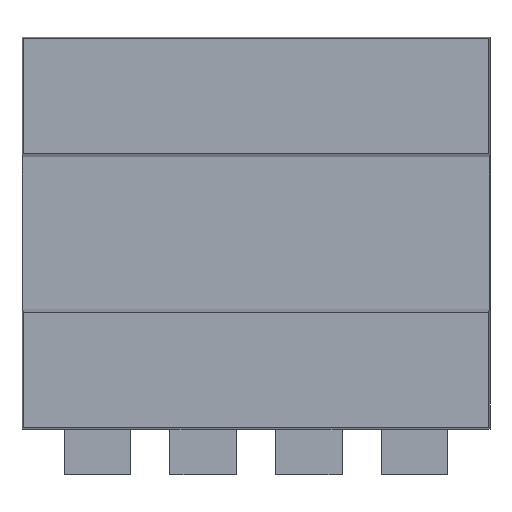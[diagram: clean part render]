
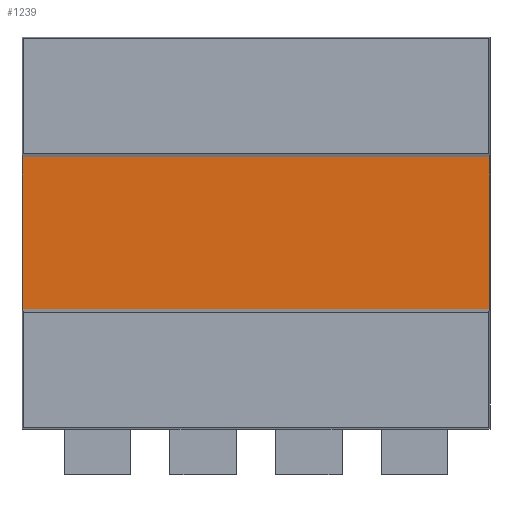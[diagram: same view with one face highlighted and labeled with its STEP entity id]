
A CAD part, front view. The second image highlights one B-rep face of the part: STEP entity #1239.
In plain terms, the highlighted planar face has unit normal (0, -1, 0).
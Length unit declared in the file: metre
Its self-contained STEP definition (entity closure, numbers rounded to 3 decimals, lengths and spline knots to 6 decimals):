
#187=ORIENTED_EDGE('',*,*,#469,.T.);
#188=ORIENTED_EDGE('',*,*,#463,.T.);
#189=ORIENTED_EDGE('',*,*,#470,.F.);
#190=ORIENTED_EDGE('',*,*,#444,.F.);
#444=EDGE_CURVE('',#599,#600,#720,.F.);
#463=EDGE_CURVE('',#609,#612,#739,.T.);
#469=EDGE_CURVE('',#599,#609,#745,.T.);
#470=EDGE_CURVE('',#600,#612,#746,.T.);
#599=VERTEX_POINT('',#1779);
#600=VERTEX_POINT('',#1781);
#609=VERTEX_POINT('',#1806);
#612=VERTEX_POINT('',#1813);
#720=LINE('',#1780,#862);
#739=LINE('',#1814,#881);
#745=LINE('',#1826,#887);
#746=LINE('',#1828,#888);
#862=VECTOR('',#1470,1.);
#881=VECTOR('',#1493,1.);
#887=VECTOR('',#1507,1.);
#888=VECTOR('',#1510,1.);
#985=EDGE_LOOP('',(#187,#188,#189,#190));
#1083=FACE_BOUND('',#985,.T.);
#1181=PLANE('',#1343);
#1239=ADVANCED_FACE('',(#1083),#1181,.F.);
#1343=AXIS2_PLACEMENT_3D('',#1829,#1511,#1512);
#1470=DIRECTION('',(0.,0.,1.));
#1493=DIRECTION('',(0.,0.,-1.));
#1507=DIRECTION('',(-1.,0.,0.));
#1510=DIRECTION('',(-1.,0.,0.));
#1511=DIRECTION('',(0.,1.,0.));
#1512=DIRECTION('',(0.,0.,1.));
#1779=CARTESIAN_POINT('',(0.053579,-0.0098,0.0175));
#1780=CARTESIAN_POINT('',(0.053579,-0.0098,-0.045));
#1781=CARTESIAN_POINT('',(0.053579,-0.0098,-0.0175));
#1806=CARTESIAN_POINT('',(-0.053579,-0.0098,0.0175));
#1813=CARTESIAN_POINT('',(-0.053579,-0.0098,-0.0175));
#1814=CARTESIAN_POINT('',(-0.053579,-0.0098,-0.045));
#1826=CARTESIAN_POINT('',(0.155342,-0.0098,0.0175));
#1828=CARTESIAN_POINT('',(0.155342,-0.0098,-0.0175));
#1829=CARTESIAN_POINT('',(0.155342,-0.0098,0.));
